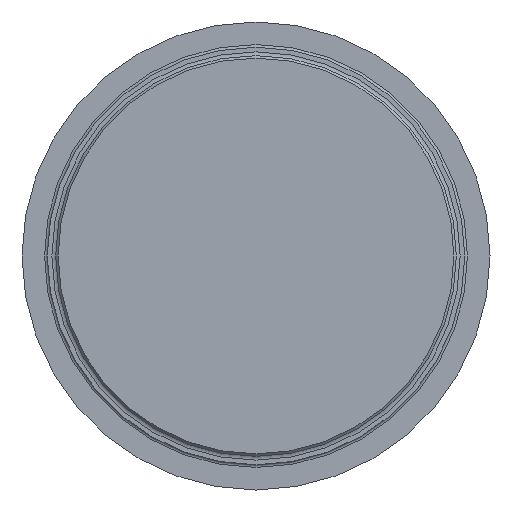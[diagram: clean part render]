
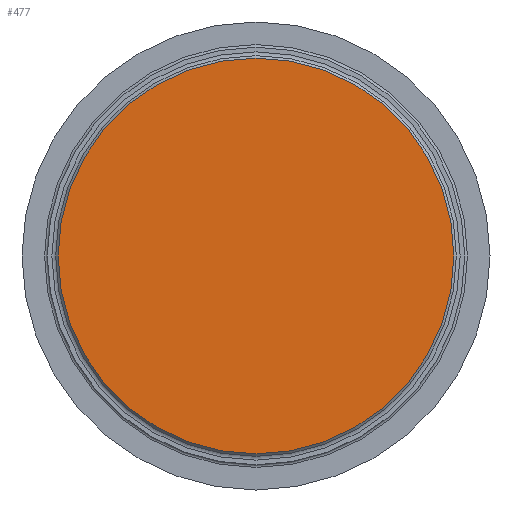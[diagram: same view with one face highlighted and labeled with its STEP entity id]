
A CAD part, front view. The second image highlights one B-rep face of the part: STEP entity #477.
In plain terms, the highlighted planar face has unit normal (0, -1, 0).
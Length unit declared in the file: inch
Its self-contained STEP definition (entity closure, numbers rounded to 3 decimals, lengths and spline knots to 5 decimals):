
#23=PLANE('',#583);
#86=FACE_OUTER_BOUND('',#114,.T.);
#114=EDGE_LOOP('',(#427,#428));
#144=CIRCLE('',#527,2.167);
#145=CIRCLE('',#528,2.167);
#200=VERTEX_POINT('',#817);
#201=VERTEX_POINT('',#819);
#257=EDGE_CURVE('',#201,#200,#144,.T.);
#258=EDGE_CURVE('',#200,#201,#145,.T.);
#427=ORIENTED_EDGE('',*,*,#257,.T.);
#428=ORIENTED_EDGE('',*,*,#258,.T.);
#477=ADVANCED_FACE('',(#86),#23,.F.);
#527=AXIS2_PLACEMENT_3D('',#820,#641,#642);
#528=AXIS2_PLACEMENT_3D('',#821,#643,#644);
#583=AXIS2_PLACEMENT_3D('',#920,#763,#764);
#641=DIRECTION('center_axis',(0.,-1.,0.));
#642=DIRECTION('ref_axis',(0.,0.,1.));
#643=DIRECTION('center_axis',(0.,-1.,0.));
#644=DIRECTION('ref_axis',(0.,0.,1.));
#763=DIRECTION('center_axis',(0.,1.,0.));
#764=DIRECTION('ref_axis',(0.,0.,1.));
#817=CARTESIAN_POINT('',(0.,-0.63,-2.167));
#819=CARTESIAN_POINT('',(0.,-0.63,2.167));
#820=CARTESIAN_POINT('Origin',(0.,-0.63,0.));
#821=CARTESIAN_POINT('Origin',(0.,-0.63,0.));
#920=CARTESIAN_POINT('Origin',(2.2855,-0.63,0.));
